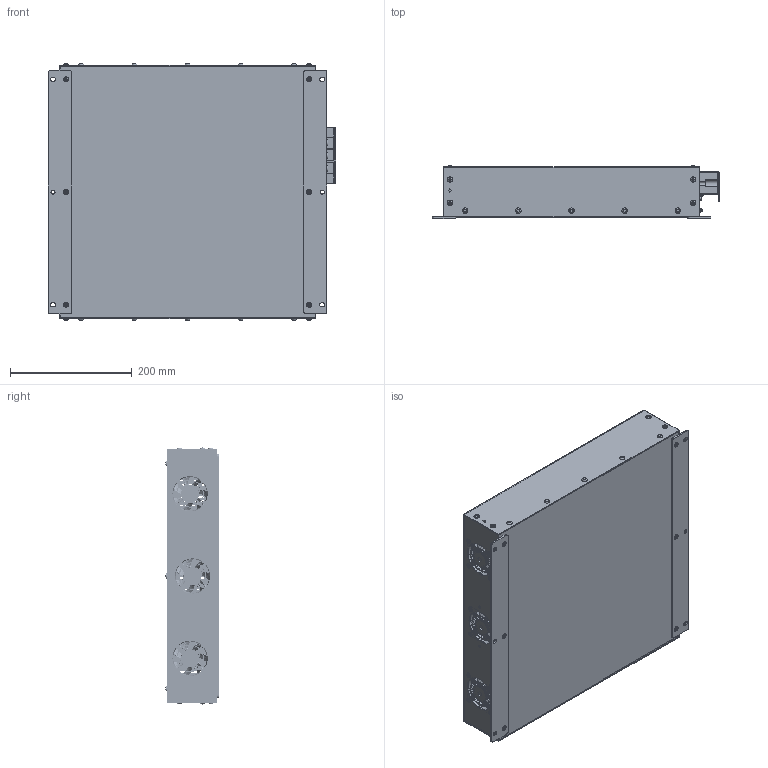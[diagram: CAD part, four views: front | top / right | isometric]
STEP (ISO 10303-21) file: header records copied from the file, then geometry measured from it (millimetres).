
FILE_DESCRIPTION(/* description */ (''),/* implementation_level */ '2;1');
FILE_NAME(/* name */ '',/* time_stamp */ '2026-06-08T14:48:06+09:00',/* author */ ('Administrator'),/* organization */ (''),/* preprocessor_version */ 'ST-DEVELOPER v20.1',/* originating_system */ 'Autodesk Inventor 2026',/* authorisation */ '');
FILE_SCHEMA (('AUTOMOTIVE_DESIGN { 1 0 10303 214 3 1 1 }'));
Products named in the file (1): OLED_VW3COM_2026.06.05_단순화_3
Bounding box: 471.28 x 87.95 x 421.84 mm (x, y, z)
Volume: 914174.1 mm3; surface area: 1154134 mm2
Topology: 20 solids, 20 shells, 6282 faces, 16568 edges, 10805 vertices
Faces by surface type: plane 3439, cylinder 1340, bspline 1241, torus 154, cone 77, sphere 31
Full cylindrical faces by diameter (mm): 0.013 x9, 0.6 x3, 0.609 x1, 0.61 x27, 0.635 x9, 0.7 x18, 0.75 x18, 0.85 x3, 0.9 x24, 1 x5, 1.397 x9, 1.5 x4, 2.1 x4, 2.286 x9, 2.5 x4, 2.8 x12, 2.957 x12, 3 x6, 3.048 x4, 3.4 x5, 3.6 x2, 3.783 x2, 3.8 x48, 3.9 x2, 4 x23, 4.3 x12, 4.5 x12, 5 x19, 5.3 x20, 5.4 x6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
Entity records: 229425 total; most frequent: CARTESIAN_POINT 72789, ORIENTED_EDGE 33088, DIRECTION 27496, EDGE_CURVE 16544, VERTEX_POINT 10805, LINE 10100, VECTOR 10100, AXIS2_PLACEMENT_3D 8698
